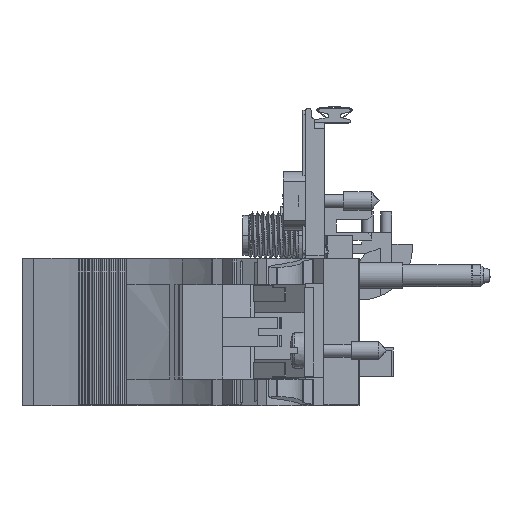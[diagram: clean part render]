
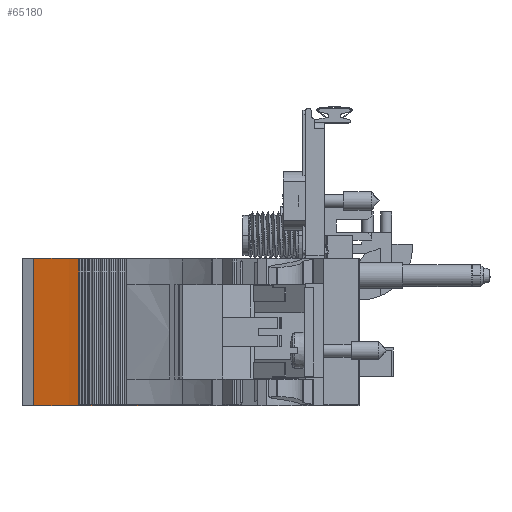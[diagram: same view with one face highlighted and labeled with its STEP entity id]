
A CAD part, front view. The second image highlights one B-rep face of the part: STEP entity #65180.
In plain terms, the highlighted cylindrical face has radius 51.46 mm (diameter 102.919 mm), a partial arc.
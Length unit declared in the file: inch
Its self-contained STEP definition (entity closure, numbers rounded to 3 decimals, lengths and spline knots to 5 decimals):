
#20209=CARTESIAN_POINT('',(-1.97772,-5.95158,
-0.09488));
#20210=DIRECTION('',(0.,0.,1.));
#20211=DIRECTION('',(0.435,0.9,0.));
#20212=AXIS2_PLACEMENT_3D('',#20209,#20210,#20211);
#20462=CARTESIAN_POINT('',(-1.97772,-5.95158,
0.69312));
#20463=DIRECTION('',(0.,0.,1.));
#20464=DIRECTION('',(0.435,0.9,0.));
#20465=AXIS2_PLACEMENT_3D('',#20462,#20463,#20464);
#22301=CARTESIAN_POINT('',(-1.97772,-5.95158,
-0.09064));
#22302=DIRECTION('',(0.,0.,1.));
#22303=DIRECTION('',(0.435,0.9,0.));
#22304=AXIS2_PLACEMENT_3D('',#22301,#22302,#22303);
#22464=DIRECTION('',(0.,0.,1.));
#22465=VECTOR('',#22464,0.00424);
#22466=CARTESIAN_POINT('',(-1.09641,-4.12734,
-0.09488));
#22467=LINE('',#22466,#22465);
#22468=DIRECTION('',(0.,0.,1.));
#22469=VECTOR('',#22468,0.788);
#22470=CARTESIAN_POINT('',(-1.65439,-3.95158,
-0.09488));
#22471=LINE('',#22470,#22469);
#22746=DIRECTION('',(0.,0.,1.));
#22747=VECTOR('',#22746,0.00424);
#22748=CARTESIAN_POINT('',(-1.09641,-4.12734,
0.68888));
#22749=LINE('',#22748,#22747);
#23135=CARTESIAN_POINT('',(-1.97772,-5.95158,
0.68888));
#23136=DIRECTION('',(0.,0.,1.));
#23137=DIRECTION('',(0.435,0.9,0.));
#23138=AXIS2_PLACEMENT_3D('',#23135,#23136,#23137);
#24161=DIRECTION('',(0.,0.,1.));
#24162=VECTOR('',#24161,0.77953);
#24163=CARTESIAN_POINT('',(-1.41127,-4.00641,
-0.09064));
#24164=LINE('',#24163,#24162);
#40850=CARTESIAN_POINT('',(-1.09641,-4.12734,
-0.09488));
#40851=CARTESIAN_POINT('',(-1.65439,-3.95158,
-0.09488));
#40852=VERTEX_POINT('',#40850);
#40853=VERTEX_POINT('',#40851);
#40854=CARTESIAN_POINT('',(-1.09641,-4.12734,
0.69312));
#40855=CARTESIAN_POINT('',(-1.65439,-3.95158,
0.69312));
#40856=VERTEX_POINT('',#40854);
#40857=VERTEX_POINT('',#40855);
#40912=CARTESIAN_POINT('',(-1.09641,-4.12734,
-0.09064));
#40914=VERTEX_POINT('',#40912);
#40942=CARTESIAN_POINT('',(-1.41127,-4.00641,
-0.09064));
#40943=VERTEX_POINT('',#40942);
#41041=CARTESIAN_POINT('',(-1.09641,-4.12734,
0.68888));
#41043=VERTEX_POINT('',#41041);
#41065=CARTESIAN_POINT('',(-1.41127,-4.00641,
0.68888));
#41066=VERTEX_POINT('',#41065);
#65161=CARTESIAN_POINT('',(-1.97772,-5.95158,
0.69312));
#65162=DIRECTION('',(0.,0.,1.));
#65163=DIRECTION('',(0.,1.,0.));
#65164=AXIS2_PLACEMENT_3D('',#65161,#65162,#65163);
#65165=CYLINDRICAL_SURFACE('',#65164,2.02597);
#65166=ORIENTED_EDGE('',*,*,#65082,.F.);
#65167=ORIENTED_EDGE('',*,*,#65156,.F.);
#65168=ORIENTED_EDGE('',*,*,#62554,.T.);
#65170=ORIENTED_EDGE('',*,*,#65169,.T.);
#65171=ORIENTED_EDGE('',*,*,#62767,.F.);
#65173=ORIENTED_EDGE('',*,*,#65172,.F.);
#65175=ORIENTED_EDGE('',*,*,#65174,.T.);
#65177=ORIENTED_EDGE('',*,*,#65176,.F.);
#65178=EDGE_LOOP('',(#65166,#65167,#65168,#65170,#65171,#65173,#65175,#65177));
#65179=FACE_OUTER_BOUND('',#65178,.F.);
#65180=ADVANCED_FACE('',(#65179),#65165,.F.);
#20213=CIRCLE('',#20212,2.02597);
#20466=CIRCLE('',#20465,2.02597);
#22305=CIRCLE('',#22304,2.02597);
#23139=CIRCLE('',#23138,2.02597);
#62554=EDGE_CURVE('',#40852,#40853,#20213,.T.);
#62767=EDGE_CURVE('',#40856,#40857,#20466,.T.);
#65082=EDGE_CURVE('',#40914,#40943,#22305,.T.);
#65156=EDGE_CURVE('',#40852,#40914,#22467,.T.);
#65169=EDGE_CURVE('',#40853,#40857,#22471,.T.);
#65172=EDGE_CURVE('',#41043,#40856,#22749,.T.);
#65174=EDGE_CURVE('',#41043,#41066,#23139,.T.);
#65176=EDGE_CURVE('',#40943,#41066,#24164,.T.);
